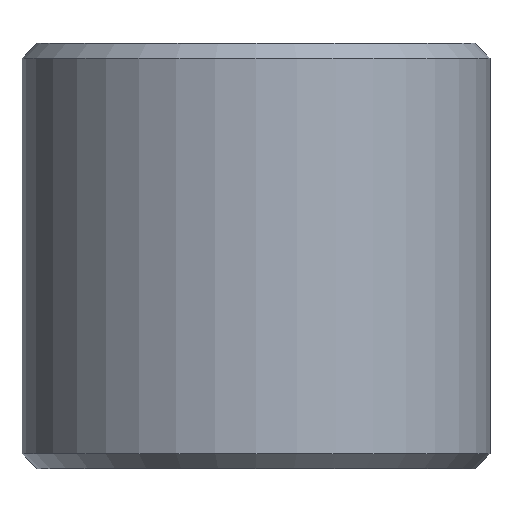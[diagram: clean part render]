
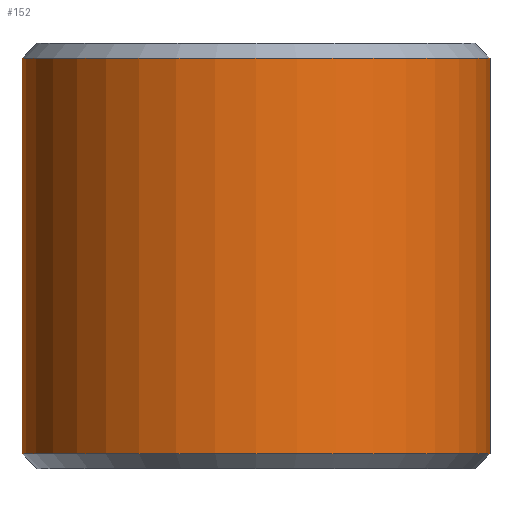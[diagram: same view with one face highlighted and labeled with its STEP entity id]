
A CAD part, front view. The second image highlights one B-rep face of the part: STEP entity #152.
In plain terms, the highlighted cylindrical face has radius 55 mm (diameter 110 mm), a partial arc.
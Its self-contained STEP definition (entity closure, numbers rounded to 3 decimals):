
#9 = EDGE_CURVE ( 'NONE', #217, #193, #24, .T. ) ;
#24 = LINE ( 'NONE', #223, #350 ) ;
#32 = DIRECTION ( 'NONE',  ( 0., 0., -1. ) ) ;
#36 = DIRECTION ( 'NONE',  ( 1., 0., 0. ) ) ;
#51 = AXIS2_PLACEMENT_3D ( 'NONE', #155, #294, #192 ) ;
#70 = CARTESIAN_POINT ( 'NONE',  ( 55., 0., 46.5 ) ) ;
#88 = CARTESIAN_POINT ( 'NONE',  ( 0., 0., 50. ) ) ;
#90 = EDGE_CURVE ( 'NONE', #366, #217, #337, .T. ) ;
#91 = ORIENTED_EDGE ( 'NONE', *, *, #309, .T. ) ;
#109 = EDGE_LOOP ( 'NONE', ( #248, #240, #213, #91 ) ) ;
#143 = EDGE_CURVE ( 'NONE', #366, #398, #229, .T. ) ;
#152 = ADVANCED_FACE ( 'NONE', ( #197 ), #258, .T. ) ;
#155 = CARTESIAN_POINT ( 'NONE',  ( 0., 0., 46.5 ) ) ;
#170 = DIRECTION ( 'NONE',  ( 0., 0., 1. ) ) ;
#192 = DIRECTION ( 'NONE',  ( 1., 0., 0. ) ) ;
#193 = VERTEX_POINT ( 'NONE', #409 ) ;
#196 = CIRCLE ( 'NONE', #212, 55. ) ;
#197 = FACE_OUTER_BOUND ( 'NONE', #109, .T. ) ;
#212 = AXIS2_PLACEMENT_3D ( 'NONE', #305, #170, #36 ) ;
#213 = ORIENTED_EDGE ( 'NONE', *, *, #9, .T. ) ;
#217 = VERTEX_POINT ( 'NONE', #302 ) ;
#223 = CARTESIAN_POINT ( 'NONE',  ( -55., 0., 50. ) ) ;
#229 = LINE ( 'NONE', #411, #299 ) ;
#240 = ORIENTED_EDGE ( 'NONE', *, *, #90, .T. ) ;
#248 = ORIENTED_EDGE ( 'NONE', *, *, #143, .F. ) ;
#258 = CYLINDRICAL_SURFACE ( 'NONE', #360, 55. ) ;
#282 = CARTESIAN_POINT ( 'NONE',  ( 55., 0., -46.5 ) ) ;
#294 = DIRECTION ( 'NONE',  ( 0., 0., -1. ) ) ;
#299 = VECTOR ( 'NONE', #402, 1000. ) ;
#302 = CARTESIAN_POINT ( 'NONE',  ( -55., 0., 46.5 ) ) ;
#305 = CARTESIAN_POINT ( 'NONE',  ( 0., 0., -46.5 ) ) ;
#309 = EDGE_CURVE ( 'NONE', #193, #398, #196, .T. ) ;
#337 = CIRCLE ( 'NONE', #51, 55. ) ;
#350 = VECTOR ( 'NONE', #435, 1000. ) ;
#360 = AXIS2_PLACEMENT_3D ( 'NONE', #88, #32, #446 ) ;
#366 = VERTEX_POINT ( 'NONE', #70 ) ;
#398 = VERTEX_POINT ( 'NONE', #282 ) ;
#402 = DIRECTION ( 'NONE',  ( 0., 0., -1. ) ) ;
#409 = CARTESIAN_POINT ( 'NONE',  ( -55., 0., -46.5 ) ) ;
#411 = CARTESIAN_POINT ( 'NONE',  ( 55., 0., 50. ) ) ;
#435 = DIRECTION ( 'NONE',  ( 0., 0., -1. ) ) ;
#446 = DIRECTION ( 'NONE',  ( -1., 0., 0. ) ) ;
